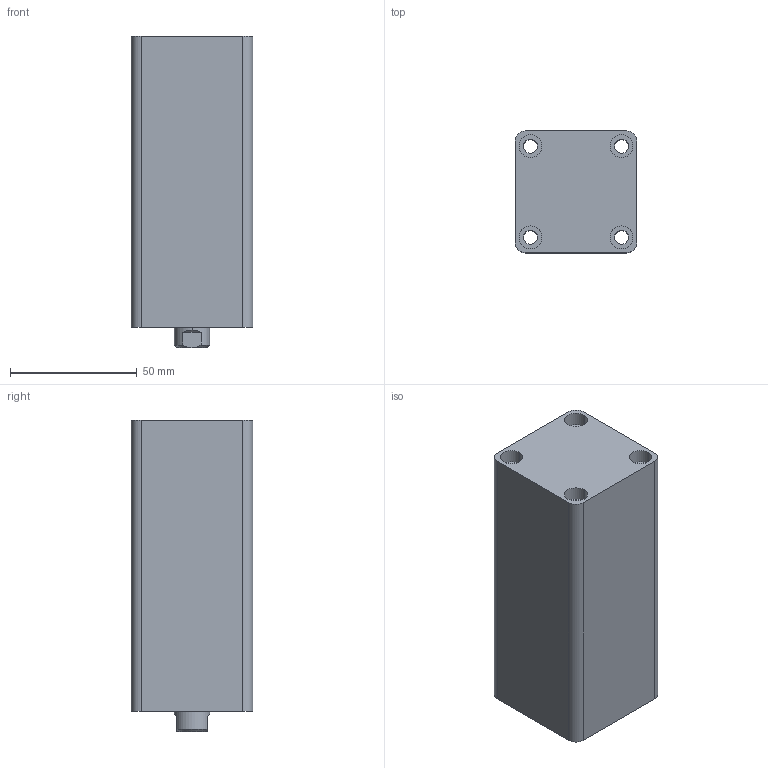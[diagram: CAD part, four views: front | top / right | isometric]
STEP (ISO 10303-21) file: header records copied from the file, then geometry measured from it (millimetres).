
FILE_DESCRIPTION (( 'STEP AP203' ), '1' );
FILE_NAME ('HTB-SD25-70N.STEP', '2019-10-07T06:18:47', ( '微软用户' ), ( '微软中国' ), 'SwSTEP 2.0', 'SolidWorks 2012', '' );
FILE_SCHEMA (( 'CONFIG_CONTROL_DESIGN' ));
Length unit declared in the file: millimetre
Products named in the file (3): HTB-SD25-70N活塞杆; HTB-SD25-70N; HTB-SD25-70掛极
Assembly tree (2 placements, depth 2):
  HTB-SD25-70N
    HTB-SD25-70掛极
    HTB-SD25-70N活塞杆
Bounding box: 48 x 48 x 123 mm (x, y, z)
Volume: 226000.8 mm3; surface area: 49910.6 mm2
Topology: 2 solids, 2 shells, 83 faces, 182 edges, 117 vertices
Faces by surface type: cylinder 42, plane 27, cone 8, torus 6
Entity records: 2653 total; most frequent: DIRECTION 454, CARTESIAN_POINT 429, ORIENTED_EDGE 360, AXIS2_PLACEMENT_3D 194, EDGE_CURVE 180, VERTEX_POINT 117, EDGE_LOOP 107, CIRCLE 106
